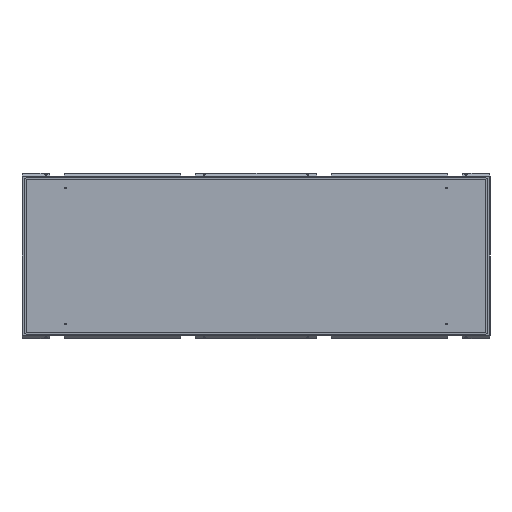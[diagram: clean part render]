
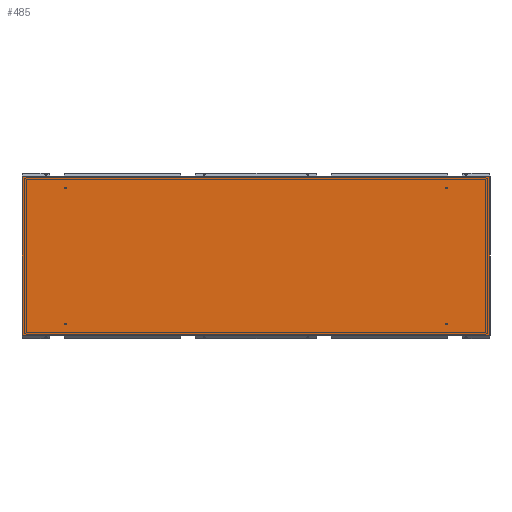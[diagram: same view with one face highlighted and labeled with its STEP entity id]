
A CAD part, left-side view. The second image highlights one B-rep face of the part: STEP entity #485.
In plain terms, the highlighted planar face has unit normal (-1, 0, 0) as drawn and (0, 0, 1) by its records, which use the part's own axes.
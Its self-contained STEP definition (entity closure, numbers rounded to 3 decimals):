
#255 = VERTEX_POINT ( 'NONE', #814 ) ;
#370 = LINE ( 'NONE', #5617, #5319 ) ;
#485 = ADVANCED_FACE ( 'NONE', ( #5065 ), #3663, .F. ) ;
#630 = CARTESIAN_POINT ( 'NONE',  ( 362.75, 1070.5, 0. ) ) ;
#658 = DIRECTION ( 'NONE',  ( 1., 0., 0. ) ) ;
#814 = CARTESIAN_POINT ( 'NONE',  ( -362.75, 1070.5, 0. ) ) ;
#958 = ORIENTED_EDGE ( 'NONE', *, *, #2090, .T. ) ;
#1344 = AXIS2_PLACEMENT_3D ( 'NONE', #7742, #1789, #4405 ) ;
#1762 = VERTEX_POINT ( 'NONE', #630 ) ;
#1789 = DIRECTION ( 'NONE',  ( 0., 0., -1. ) ) ;
#2090 = EDGE_CURVE ( 'NONE', #255, #5951, #3556, .T. ) ;
#2188 = EDGE_CURVE ( 'NONE', #1762, #255, #370, .T. ) ;
#2577 = LINE ( 'NONE', #3071, #5528 ) ;
#3071 = CARTESIAN_POINT ( 'NONE',  ( 362.75, -1070.5, 0. ) ) ;
#3364 = VECTOR ( 'NONE', #8255, 1000. ) ;
#3556 = LINE ( 'NONE', #4216, #3364 ) ;
#3663 = PLANE ( 'NONE',  #1344 ) ;
#4028 = LINE ( 'NONE', #7312, #7240 ) ;
#4137 = EDGE_CURVE ( 'NONE', #8104, #1762, #2577, .T. ) ;
#4216 = CARTESIAN_POINT ( 'NONE',  ( -362.75, -1070.5, 0. ) ) ;
#4227 = ORIENTED_EDGE ( 'NONE', *, *, #6308, .T. ) ;
#4405 = DIRECTION ( 'NONE',  ( -1., 0., 0. ) ) ;
#4922 = CARTESIAN_POINT ( 'NONE',  ( -362.75, -1070.5, 0. ) ) ;
#5065 = FACE_OUTER_BOUND ( 'NONE', #7237, .T. ) ;
#5319 = VECTOR ( 'NONE', #7683, 1000. ) ;
#5528 = VECTOR ( 'NONE', #8508, 1000. ) ;
#5617 = CARTESIAN_POINT ( 'NONE',  ( -362.75, 1070.5, 0. ) ) ;
#5951 = VERTEX_POINT ( 'NONE', #4922 ) ;
#6308 = EDGE_CURVE ( 'NONE', #5951, #8104, #4028, .T. ) ;
#7038 = ORIENTED_EDGE ( 'NONE', *, *, #2188, .T. ) ;
#7237 = EDGE_LOOP ( 'NONE', ( #7613, #7038, #958, #4227 ) ) ;
#7240 = VECTOR ( 'NONE', #658, 1000. ) ;
#7312 = CARTESIAN_POINT ( 'NONE',  ( -362.75, -1070.5, 0. ) ) ;
#7613 = ORIENTED_EDGE ( 'NONE', *, *, #4137, .T. ) ;
#7683 = DIRECTION ( 'NONE',  ( -1., 0., 0. ) ) ;
#7742 = CARTESIAN_POINT ( 'NONE',  ( 0., 0., 0. ) ) ;
#8104 = VERTEX_POINT ( 'NONE', #8501 ) ;
#8255 = DIRECTION ( 'NONE',  ( 0., -1., 0. ) ) ;
#8501 = CARTESIAN_POINT ( 'NONE',  ( 362.75, -1070.5, 0. ) ) ;
#8508 = DIRECTION ( 'NONE',  ( 0., 1., 0. ) ) ;
